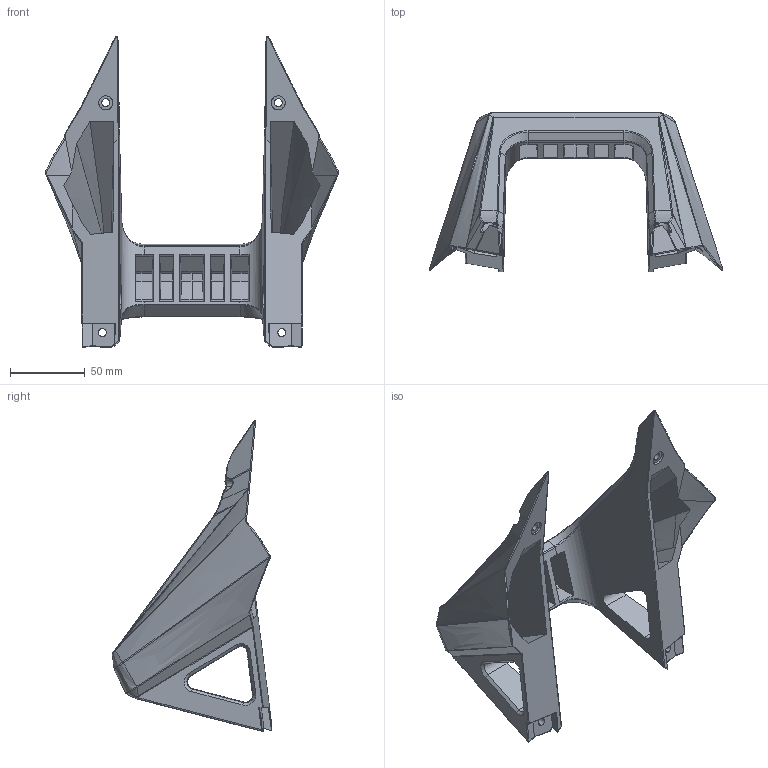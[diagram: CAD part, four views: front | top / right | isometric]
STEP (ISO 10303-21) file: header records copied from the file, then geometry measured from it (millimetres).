
FILE_DESCRIPTION((''),'2;1');
FILE_NAME('P600','2024-11-25T19:56:32',('Administrator'),(''),'CREO PARAMETRIC BY PTC INC, 2023073','CREO PARAMETRIC BY PTC INC, 2023073','');
FILE_SCHEMA(('CONFIG_CONTROL_DESIGN'));
Length unit declared in the file: millimetre
Products named in the file (1): P600
Bounding box: 197.29 x 107.03 x 208.76 mm (x, y, z)
Volume: 388196.3 mm3; surface area: 101509.7 mm2
Topology: 1 solids, 1 shells, 403 faces, 1000 edges, 604 vertices
Faces by surface type: bspline 268, plane 63, cylinder 40, cone 14, extrusion 12, sphere 6
Entity records: 32098 total; most frequent: CARTESIAN_POINT 24639, ORIENTED_EDGE 2000, EDGE_CURVE 1000, DIRECTION 801, B_SPLINE_CURVE_WITH_KNOTS 627, VERTEX_POINT 604, EDGE_LOOP 420, FACE_OUTER_BOUND 403
